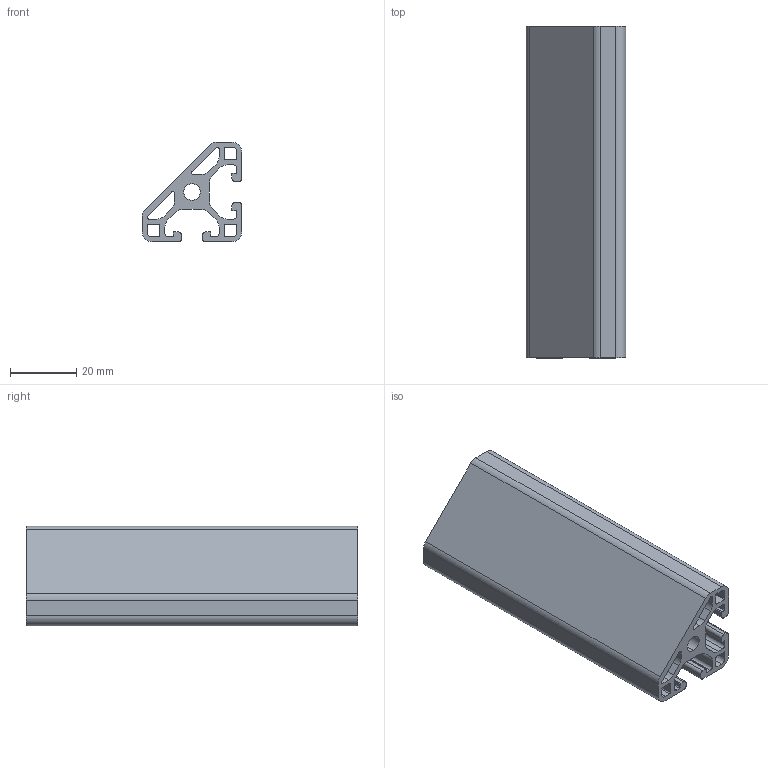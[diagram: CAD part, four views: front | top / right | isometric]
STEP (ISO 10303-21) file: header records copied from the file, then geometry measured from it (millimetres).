
FILE_DESCRIPTION (( 'STEP AP203' ), '1' );
FILE_NAME ('0106P3030-45L.STEP', '2024-02-27T14:14:06', ( 'Windows-Benutzer' ), ( '' ), 'SwSTEP 2.0', 'SolidWorks 2023', '' );
FILE_SCHEMA (( 'CONFIG_CONTROL_DESIGN' ));
Length unit declared in the file: millimetre
Products named in the file (1): 0106P3030-45L
Bounding box: 30 x 100 x 30 mm (x, y, z)
Volume: 30787.8 mm3; surface area: 29428.6 mm2
Topology: 1 solids, 1 shells, 110 faces, 324 edges, 216 vertices
Faces by surface type: cylinder 55, plane 55
Entity records: 3799 total; most frequent: DIRECTION 656, CARTESIAN_POINT 651, ORIENTED_EDGE 648, EDGE_CURVE 324, AXIS2_PLACEMENT_3D 221, VERTEX_POINT 216, VECTOR 214, LINE 214
